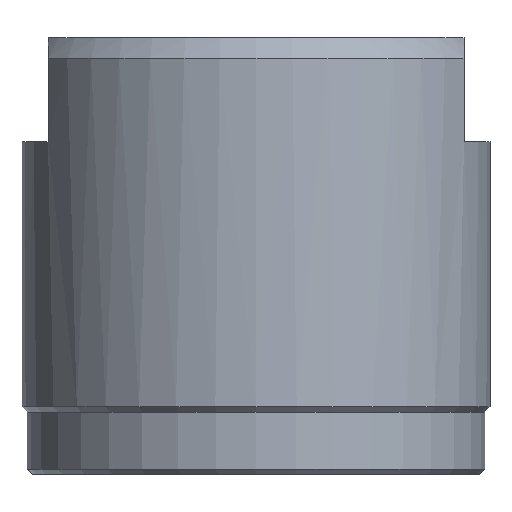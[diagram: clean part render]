
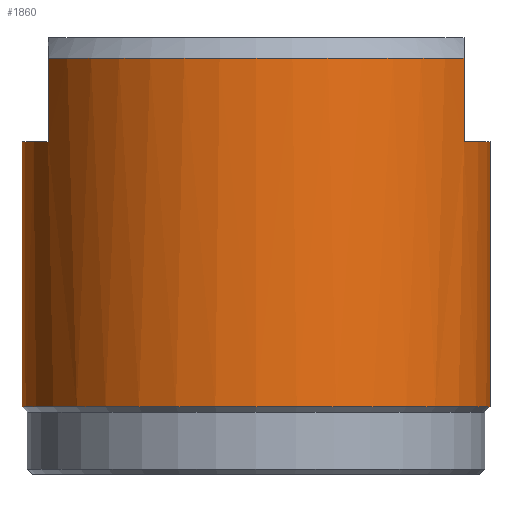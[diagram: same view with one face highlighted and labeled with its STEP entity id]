
A CAD part, left-side view. The second image highlights one B-rep face of the part: STEP entity #1860.
In plain terms, the highlighted cylindrical face has radius 11.25 mm (diameter 22.5 mm), a full revolution.
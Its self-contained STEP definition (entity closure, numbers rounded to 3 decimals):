
#16 = VERTEX_POINT ( 'NONE', #640 ) ;
#28 = ORIENTED_EDGE ( 'NONE', *, *, #460, .F. ) ;
#36 = DIRECTION ( 'NONE',  ( 0., 0., -1. ) ) ;
#51 = AXIS2_PLACEMENT_3D ( 'NONE', #313, #2062, #1405 ) ;
#60 = VERTEX_POINT ( 'NONE', #1962 ) ;
#69 = VERTEX_POINT ( 'NONE', #1153 ) ;
#81 = EDGE_CURVE ( 'NONE', #90, #421, #1760, .T. ) ;
#90 = VERTEX_POINT ( 'NONE', #1646 ) ;
#97 = DIRECTION ( 'NONE',  ( 0., 0., 1. ) ) ;
#99 = ORIENTED_EDGE ( 'NONE', *, *, #680, .T. ) ;
#114 = VECTOR ( 'NONE', #1421, 1000. ) ;
#137 = CARTESIAN_POINT ( 'NONE',  ( 0., 0., 16. ) ) ;
#184 = FACE_OUTER_BOUND ( 'NONE', #906, .T. ) ;
#199 = VERTEX_POINT ( 'NONE', #430 ) ;
#223 = ORIENTED_EDGE ( 'NONE', *, *, #81, .T. ) ;
#243 = EDGE_CURVE ( 'NONE', #69, #90, #725, .T. ) ;
#253 = ORIENTED_EDGE ( 'NONE', *, *, #1701, .T. ) ;
#313 = CARTESIAN_POINT ( 'NONE',  ( 0., 0., 3.25 ) ) ;
#400 = EDGE_CURVE ( 'NONE', #560, #199, #447, .T. ) ;
#421 = VERTEX_POINT ( 'NONE', #2074 ) ;
#430 = CARTESIAN_POINT ( 'NONE',  ( 5.154, 10., 20. ) ) ;
#439 = DIRECTION ( 'NONE',  ( 0., 0., 1. ) ) ;
#447 = LINE ( 'NONE', #1555, #114 ) ;
#460 = EDGE_CURVE ( 'NONE', #69, #630, #1556, .T. ) ;
#461 = DIRECTION ( 'NONE',  ( -1., 0., 0. ) ) ;
#469 = CARTESIAN_POINT ( 'NONE',  ( 5.154, -10., 0. ) ) ;
#527 = CIRCLE ( 'NONE', #51, 11.25 ) ;
#528 = EDGE_CURVE ( 'NONE', #731, #731, #527, .T. ) ;
#560 = VERTEX_POINT ( 'NONE', #1878 ) ;
#561 = CIRCLE ( 'NONE', #1331, 11.25 ) ;
#599 = CARTESIAN_POINT ( 'NONE',  ( 0., 0., 20. ) ) ;
#630 = VERTEX_POINT ( 'NONE', #933 ) ;
#640 = CARTESIAN_POINT ( 'NONE',  ( -5.154, 10., 16. ) ) ;
#680 = EDGE_CURVE ( 'NONE', #421, #16, #1412, .T. ) ;
#693 = VECTOR ( 'NONE', #97, 1000. ) ;
#725 = LINE ( 'NONE', #735, #693 ) ;
#726 = VECTOR ( 'NONE', #953, 1000. ) ;
#731 = VERTEX_POINT ( 'NONE', #1814 ) ;
#735 = CARTESIAN_POINT ( 'NONE',  ( -5.154, -10., 0. ) ) ;
#743 = EDGE_CURVE ( 'NONE', #60, #630, #1737, .T. ) ;
#827 = CYLINDRICAL_SURFACE ( 'NONE', #1835, 11.25 ) ;
#841 = DIRECTION ( 'NONE',  ( -1., 0., 0. ) ) ;
#906 = EDGE_LOOP ( 'NONE', ( #28, #1324, #223, #99, #1414, #1842, #253, #955 ) ) ;
#933 = CARTESIAN_POINT ( 'NONE',  ( 5.154, -10., 16. ) ) ;
#953 = DIRECTION ( 'NONE',  ( 0., 0., -1. ) ) ;
#955 = ORIENTED_EDGE ( 'NONE', *, *, #743, .T. ) ;
#1012 = DIRECTION ( 'NONE',  ( -1., 0., 0. ) ) ;
#1034 = CIRCLE ( 'NONE', #1558, 11.25 ) ;
#1086 = DIRECTION ( 'NONE',  ( -1., 0., 0. ) ) ;
#1097 = DIRECTION ( 'NONE',  ( 0., 0., -1. ) ) ;
#1120 = CARTESIAN_POINT ( 'NONE',  ( 0., 0., 16. ) ) ;
#1153 = CARTESIAN_POINT ( 'NONE',  ( -5.154, -10., 16. ) ) ;
#1198 = AXIS2_PLACEMENT_3D ( 'NONE', #137, #439, #1086 ) ;
#1311 = DIRECTION ( 'NONE',  ( 0., 0., -1. ) ) ;
#1324 = ORIENTED_EDGE ( 'NONE', *, *, #243, .T. ) ;
#1331 = AXIS2_PLACEMENT_3D ( 'NONE', #1120, #1900, #461 ) ;
#1405 = DIRECTION ( 'NONE',  ( -1., 0., 0. ) ) ;
#1412 = LINE ( 'NONE', #2051, #1727 ) ;
#1414 = ORIENTED_EDGE ( 'NONE', *, *, #1678, .F. ) ;
#1421 = DIRECTION ( 'NONE',  ( 0., 0., 1. ) ) ;
#1457 = EDGE_LOOP ( 'NONE', ( #1996 ) ) ;
#1555 = CARTESIAN_POINT ( 'NONE',  ( 5.154, 10., 0. ) ) ;
#1556 = CIRCLE ( 'NONE', #1198, 11.25 ) ;
#1558 = AXIS2_PLACEMENT_3D ( 'NONE', #599, #1918, #2034 ) ;
#1620 = FACE_OUTER_BOUND ( 'NONE', #1457, .T. ) ;
#1634 = CARTESIAN_POINT ( 'NONE',  ( 0., 0., 20. ) ) ;
#1646 = CARTESIAN_POINT ( 'NONE',  ( -5.154, -10., 20. ) ) ;
#1678 = EDGE_CURVE ( 'NONE', #560, #16, #561, .T. ) ;
#1701 = EDGE_CURVE ( 'NONE', #199, #60, #1034, .T. ) ;
#1727 = VECTOR ( 'NONE', #1097, 1000. ) ;
#1737 = LINE ( 'NONE', #469, #726 ) ;
#1760 = CIRCLE ( 'NONE', #1866, 11.25 ) ;
#1814 = CARTESIAN_POINT ( 'NONE',  ( -11.25, 0., 3.25 ) ) ;
#1835 = AXIS2_PLACEMENT_3D ( 'NONE', #1952, #36, #841 ) ;
#1842 = ORIENTED_EDGE ( 'NONE', *, *, #400, .T. ) ;
#1860 = ADVANCED_FACE ( 'NONE', ( #1620, #184 ), #827, .T. ) ;
#1866 = AXIS2_PLACEMENT_3D ( 'NONE', #1634, #1311, #1012 ) ;
#1878 = CARTESIAN_POINT ( 'NONE',  ( 5.154, 10., 16. ) ) ;
#1900 = DIRECTION ( 'NONE',  ( 0., 0., 1. ) ) ;
#1918 = DIRECTION ( 'NONE',  ( 0., 0., -1. ) ) ;
#1952 = CARTESIAN_POINT ( 'NONE',  ( 0., 0., 0. ) ) ;
#1962 = CARTESIAN_POINT ( 'NONE',  ( 5.154, -10., 20. ) ) ;
#1996 = ORIENTED_EDGE ( 'NONE', *, *, #528, .F. ) ;
#2034 = DIRECTION ( 'NONE',  ( -1., 0., 0. ) ) ;
#2051 = CARTESIAN_POINT ( 'NONE',  ( -5.154, 10., 0. ) ) ;
#2062 = DIRECTION ( 'NONE',  ( 0., 0., -1. ) ) ;
#2074 = CARTESIAN_POINT ( 'NONE',  ( -5.154, 10., 20. ) ) ;
